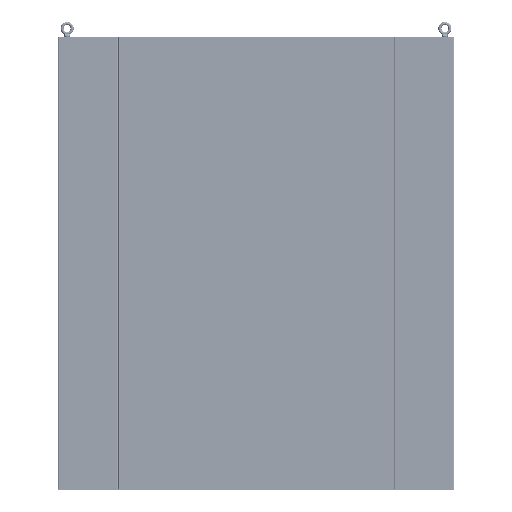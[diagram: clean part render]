
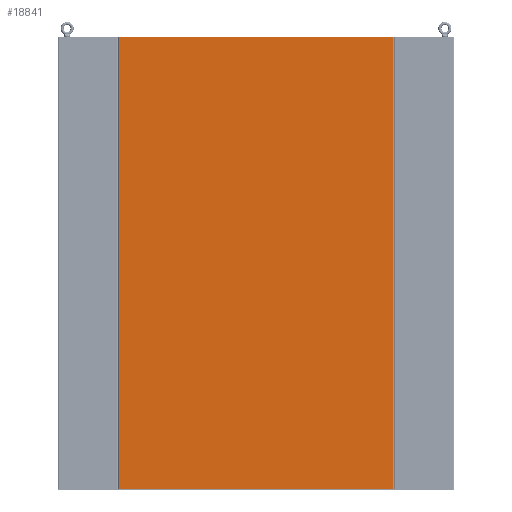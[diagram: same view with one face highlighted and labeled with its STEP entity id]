
A CAD part, front view. The second image highlights one B-rep face of the part: STEP entity #18841.
In plain terms, the highlighted planar face has unit normal (0, -1, 0) as drawn and (0, 0, -1) by its records, which use the part's own axes.
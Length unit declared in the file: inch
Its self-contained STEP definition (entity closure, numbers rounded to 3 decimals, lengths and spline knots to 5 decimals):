
#18377=DIRECTION('',(0.,-1.,0.));
#18378=VECTOR('',#18377,89.75);
#18379=CARTESIAN_POINT('',(-27.125,0.,-0.125));
#18380=LINE('',#18379,#18378);
#18392=DIRECTION('',(1.,0.,0.));
#18393=VECTOR('',#18392,54.25);
#18394=CARTESIAN_POINT('',(-27.125,-89.75,-0.125));
#18395=LINE('',#18394,#18393);
#18399=DIRECTION('',(-1.,0.,0.));
#18400=VECTOR('',#18399,54.25);
#18401=CARTESIAN_POINT('',(27.125,0.,-0.125));
#18402=LINE('',#18401,#18400);
#18435=DIRECTION('',(0.,1.,0.));
#18436=VECTOR('',#18435,89.75);
#18437=CARTESIAN_POINT('',(27.125,-89.75,-0.125));
#18438=LINE('',#18437,#18436);
#18642=CARTESIAN_POINT('',(-27.125,-89.75,-0.125));
#18643=VERTEX_POINT('',#18642);
#18644=CARTESIAN_POINT('',(-27.125,0.,-0.125));
#18645=VERTEX_POINT('',#18644);
#18674=CARTESIAN_POINT('',(27.125,0.,-0.125));
#18675=VERTEX_POINT('',#18674);
#18676=CARTESIAN_POINT('',(27.125,-89.75,-0.125));
#18677=VERTEX_POINT('',#18676);
#18827=CARTESIAN_POINT('',(0.,0.,-0.125));
#18828=DIRECTION('',(0.,0.,1.));
#18829=DIRECTION('',(1.,0.,0.));
#18830=AXIS2_PLACEMENT_3D('',#18827,#18828,#18829);
#18831=PLANE('',#18830);
#18832=ORIENTED_EDGE('',*,*,#18820,.T.);
#18834=ORIENTED_EDGE('',*,*,#18833,.T.);
#18836=ORIENTED_EDGE('',*,*,#18835,.T.);
#18838=ORIENTED_EDGE('',*,*,#18837,.T.);
#18839=EDGE_LOOP('',(#18832,#18834,#18836,#18838));
#18840=FACE_OUTER_BOUND('',#18839,.F.);
#18820=EDGE_CURVE('',#18645,#18643,#18380,.T.);
#18833=EDGE_CURVE('',#18643,#18677,#18395,.T.);
#18835=EDGE_CURVE('',#18677,#18675,#18438,.T.);
#18837=EDGE_CURVE('',#18675,#18645,#18402,.T.);
#18841=ADVANCED_FACE('',(#18840),#18831,.F.);
